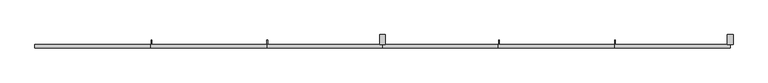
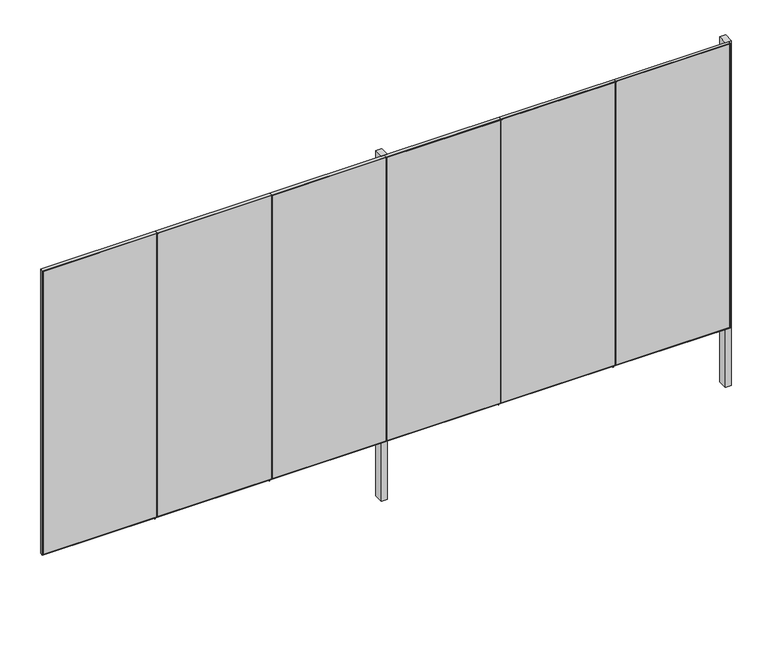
"""IFC4 building model written with IfcOpenShell, lengths in millimetres: furniture geometry, H105 Reja 6 módulos : H105.3 Reja 6 módulos 697x315."""

from ifc_helpers import new_model, si_unit, frame, origin, place, context, project, spatial, polyline, outline, extrude, source, transform, mapped, element, save


def furniture_de40e68f(model_context):
    return source(origin(), model_context, "Body", "SweptSolid", [
        extrude(outline(polyline([(4721.3669931, -468.0), (4721.3669931, -568.0), (4661.3669931, -568.0), (4661.3669931, -468.0), (4721.3669931, -468.0)])), frame((0.0, 0.0, -600.0), z_axis=(0.0, 0.0, 1.0), x_axis=(1.0, 0.0, 0.0)), (0.0, 0.0, 1.0), 3700.0),
        extrude(outline(polyline([(1236.3669931, -468.0), (1236.3669931, -568.0), (1176.3669931, -568.0), (1176.3669931, -468.0), (1236.3669931, -468.0)])), frame((0.0, 0.0, -600.0), z_axis=(0.0, 0.0, 1.0), x_axis=(1.0, 0.0, 0.0)), (0.0, 0.0, 1.0), 3700.0),
        extrude(outline(polyline([(3100.0, 3529.7003264), (3100.0, 2368.0336598), (50.0, 2368.0336598), (50.0, 3529.7003264), (3100.0, 3529.7003264)]), holes=[polyline([(3093.0, 3526.2003264), (57.0, 3526.2003264), (57.0, 2371.5336598), (3093.0, 2371.5336598), (3093.0, 3526.2003264)])]), frame((0.0, -600.0, 0.0), z_axis=(0.0, 1.0, 0.0), x_axis=(0.0, 0.0, 1.0)), (0.0, 0.0, 1.0), 32.0),
        extrude(outline(polyline([(3526.2003264, -600.0), (2371.5336598, -600.0), (2371.5336598, -597.0), (3526.2003264, -597.0), (3526.2003264, -600.0)])), frame((0.0, 0.0, 57.0), z_axis=(0.0, 0.0, 1.0), x_axis=(1.0, 0.0, 0.0)), (0.0, 0.0, 1.0), 3036.0),
        extrude(outline(polyline([(3100.0, 2368.0336598), (3100.0, 1206.3669931), (50.0, 1206.3669931), (50.0, 2368.0336598), (3100.0, 2368.0336598)]), holes=[polyline([(3093.0, 2364.5336598), (57.0, 2364.5336598), (57.0, 1209.8669931), (3093.0, 1209.8669931), (3093.0, 2364.5336598)])]), frame((0.0, -600.0, 0.0), z_axis=(0.0, 1.0, 0.0), x_axis=(0.0, 0.0, 1.0)), (0.0, 0.0, 1.0), 32.0),
        extrude(outline(polyline([(2364.5336598, -600.0), (1209.8669931, -600.0), (1209.8669931, -597.0), (2364.5336598, -597.0), (2364.5336598, -600.0)])), frame((0.0, 0.0, 57.0), z_axis=(0.0, 0.0, 1.0), x_axis=(1.0, 0.0, 0.0)), (0.0, 0.0, 1.0), 3036.0),
        extrude(outline(polyline([(3100.0, 44.7003264), (3100.0, -1116.9663402), (50.0, -1116.9663402), (50.0, 44.7003264), (3100.0, 44.7003264)]), holes=[polyline([(3093.0, 41.2003264), (57.0, 41.2003264), (57.0, -1113.4663402), (3093.0, -1113.4663402), (3093.0, 41.2003264)])]), frame((0.0, -600.0, 0.0), z_axis=(0.0, 1.0, 0.0), x_axis=(0.0, 0.0, 1.0)), (0.0, 0.0, 1.0), 32.0),
        extrude(outline(polyline([(4684.3669931, -600.0), (3533.2003264, -600.0), (3533.2003264, -597.0), (4684.3669931, -597.0), (4684.3669931, -600.0)])), frame((0.0, 0.0, 57.0), z_axis=(0.0, 0.0, 1.0), x_axis=(1.0, 0.0, 0.0)), (0.0, 0.0, 1.0), 3036.0),
        extrude(outline(polyline([(3100.0, 4691.3669931), (3100.0, 3529.7003264), (50.0, 3529.7003264), (50.0, 4691.3669931), (3100.0, 4691.3669931)]), holes=[polyline([(3093.0, 4684.3669931), (57.0, 4684.3669931), (57.0, 3533.2003264), (3093.0, 3533.2003264), (3093.0, 4684.3669931)])]), frame((0.0, -600.0, 0.0), z_axis=(0.0, 1.0, 0.0), x_axis=(0.0, 0.0, 1.0)), (0.0, 0.0, 1.0), 32.0),
        extrude(outline(polyline([(1202.8669931, -600.0), (48.2003264, -600.0), (48.2003264, -597.0), (1202.8669931, -597.0), (1202.8669931, -600.0)])), frame((0.0, 0.0, 57.0), z_axis=(0.0, 0.0, 1.0), x_axis=(1.0, 0.0, 0.0)), (0.0, 0.0, 1.0), 3036.0),
        extrude(outline(polyline([(3100.0, 1206.3669931), (3100.0, 44.7003264), (50.0, 44.7003264), (50.0, 1206.3669931), (3100.0, 1206.3669931)]), holes=[polyline([(3093.0, 1202.8669931), (57.0, 1202.8669931), (57.0, 48.2003264), (3093.0, 48.2003264), (3093.0, 1202.8669931)])]), frame((0.0, -600.0, 0.0), z_axis=(0.0, 1.0, 0.0), x_axis=(0.0, 0.0, 1.0)), (0.0, 0.0, 1.0), 32.0),
        extrude(outline(polyline([(41.2003264, -600.0), (-1113.4663402, -600.0), (-1113.4663402, -597.0), (41.2003264, -597.0), (41.2003264, -600.0)])), frame((0.0, 0.0, 57.0), z_axis=(0.0, 0.0, 1.0), x_axis=(1.0, 0.0, 0.0)), (0.0, 0.0, 1.0), 3036.0),
        extrude(outline(polyline([(-1120.4663402, -600.0), (-2271.6330069, -600.0), (-2271.6330069, -597.0), (-1120.4663402, -597.0), (-1120.4663402, -600.0)])), frame((0.0, 0.0, 57.0), z_axis=(0.0, 0.0, 1.0), x_axis=(1.0, 0.0, 0.0)), (0.0, 0.0, 1.0), 3036.0),
        extrude(outline(polyline([(3100.0, -1116.9663402), (3100.0, -2278.6330069), (50.0, -2278.6330069), (50.0, -1116.9663402), (3100.0, -1116.9663402)]), holes=[polyline([(3093.0, -1120.4663402), (57.0, -1120.4663402), (57.0, -2271.6330069), (3093.0, -2271.6330069), (3093.0, -1120.4663402)])]), frame((0.0, -600.0, 0.0), z_axis=(0.0, 1.0, 0.0), x_axis=(0.0, 0.0, 1.0)), (0.0, 0.0, 1.0), 32.0),
        extrude(outline(polyline([(-522.0, 82.0), (-522.0, 0.0), (-547.0, 0.0), (-547.0, 57.0), (-597.0, 57.0), (-597.0, 82.0), (-522.0, 82.0)])), frame((2371.5336598, 0.0, 0.0), z_axis=(1.0, 0.0, 0.0), x_axis=(0.0, 1.0, 0.0)), (0.0, 0.0, 1.0), 7.0),
        extrude(outline(polyline([(-522.0, 82.0), (-522.0, 0.0), (-547.0, 0.0), (-547.0, 57.0), (-597.0, 57.0), (-597.0, 82.0), (-522.0, 82.0)])), frame((3533.2003264, 0.0, 0.0), z_axis=(1.0, 0.0, 0.0), x_axis=(0.0, 1.0, 0.0)), (0.0, 0.0, 1.0), 7.0),
        extrude(outline(polyline([(-522.0, 82.0), (-522.0, 0.0), (-547.0, 0.0), (-547.0, 57.0), (-597.0, 57.0), (-597.0, 82.0), (-522.0, 82.0)])), frame((-1113.4663402, 0.0, 0.0), z_axis=(1.0, 0.0, 0.0), x_axis=(0.0, 1.0, 0.0)), (0.0, 0.0, 1.0), 7.0),
        extrude(outline(polyline([(-522.0, 82.0), (-522.0, 0.0), (-547.0, 0.0), (-547.0, 57.0), (-597.0, 57.0), (-597.0, 82.0), (-522.0, 82.0)])), frame((48.2003264, 0.0, 0.0), z_axis=(1.0, 0.0, 0.0), x_axis=(0.0, 1.0, 0.0)), (0.0, 0.0, 1.0), 7.0),
    ])


if __name__ == "__main__":
    model = new_model("IFC4")
    model_context = context("Model", 3, world=origin())
    ifc_project = project(units=[si_unit("LENGTHUNIT", "METRE", prefix="MILLI")], contexts=[model_context])
    site = spatial("IfcSite", under=ifc_project)
    building = spatial("IfcBuilding", under=site)
    placement = place(None, origin())
    furniture_shape = furniture_de40e68f(model_context)
    element("IfcFurniture", 1, ObjectType="H105 Reja 6 módulos : H105.3 Reja 6 módulos 697x315", at=placement, inside=building, context=model_context, shape_type="MappedRepresentation", body=[
        mapped(furniture_shape, transform((0.0, 0.0, 0.0), x_axis=(1.0, 0.0, 0.0), y_axis=(0.0, 1.0, 0.0), z_axis=(0.0, 0.0, 1.0))),
    ])
    save(model, "model.ifc")
